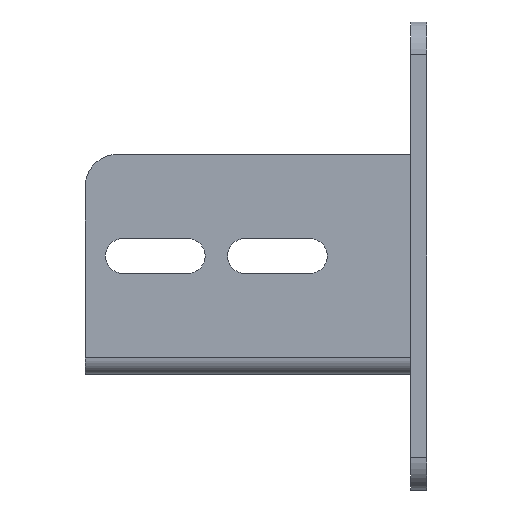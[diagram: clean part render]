
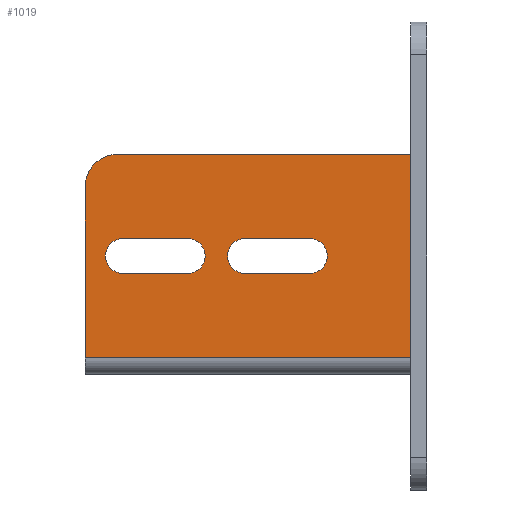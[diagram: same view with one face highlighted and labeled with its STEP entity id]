
A CAD part, left-side view. The second image highlights one B-rep face of the part: STEP entity #1019.
In plain terms, the highlighted planar face has unit normal (-1, 0, 0).
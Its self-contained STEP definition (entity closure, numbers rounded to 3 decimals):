
#6 = CARTESIAN_POINT ( 'NONE',  ( -29., 74.75, 4.25 ) ) ;
#20 = EDGE_LOOP ( 'NONE', ( #544, #1239, #1449, #502, #1602 ) ) ;
#142 = VERTEX_POINT ( 'NONE', #712 ) ;
#178 = ORIENTED_EDGE ( 'NONE', *, *, #788, .F. ) ;
#185 = ORIENTED_EDGE ( 'NONE', *, *, #912, .F. ) ;
#187 = DIRECTION ( 'NONE',  ( 0., 0., -1. ) ) ;
#190 = CARTESIAN_POINT ( 'NONE',  ( -29., 58.75, 4.25 ) ) ;
#191 = EDGE_CURVE ( 'NONE', #1428, #613, #752, .T. ) ;
#194 = LINE ( 'NONE', #828, #800 ) ;
#199 = DIRECTION ( 'NONE',  ( -1., 0., 0. ) ) ;
#202 = EDGE_CURVE ( 'NONE', #295, #1503, #970, .T. ) ;
#212 = EDGE_CURVE ( 'NONE', #1130, #1428, #1397, .T. ) ;
#287 = LINE ( 'NONE', #785, #1114 ) ;
#290 = EDGE_LOOP ( 'NONE', ( #315, #1296, #1006, #1247 ) ) ;
#295 = VERTEX_POINT ( 'NONE', #1049 ) ;
#302 = CARTESIAN_POINT ( 'NONE',  ( -29., 84., 25. ) ) ;
#310 = LINE ( 'NONE', #569, #557 ) ;
#315 = ORIENTED_EDGE ( 'NONE', *, *, #212, .F. ) ;
#318 = DIRECTION ( 'NONE',  ( 0., 0., 1. ) ) ;
#355 = EDGE_CURVE ( 'NONE', #1193, #1503, #194, .T. ) ;
#368 = EDGE_CURVE ( 'NONE', #653, #1193, #310, .T. ) ;
#386 = EDGE_CURVE ( 'NONE', #295, #142, #1403, .T. ) ;
#448 = CARTESIAN_POINT ( 'NONE',  ( -29., 84., -29. ) ) ;
#457 = AXIS2_PLACEMENT_3D ( 'NONE', #1111, #1613, #989 ) ;
#458 = DIRECTION ( 'NONE',  ( 1., 0., 0. ) ) ;
#465 = DIRECTION ( 'NONE',  ( 0., 0., -1. ) ) ;
#470 = DIRECTION ( 'NONE',  ( 0., 0., 1. ) ) ;
#500 = LINE ( 'NONE', #612, #638 ) ;
#502 = ORIENTED_EDGE ( 'NONE', *, *, #202, .F. ) ;
#510 = ORIENTED_EDGE ( 'NONE', *, *, #642, .F. ) ;
#544 = ORIENTED_EDGE ( 'NONE', *, *, #710, .F. ) ;
#557 = VECTOR ( 'NONE', #1572, 1000. ) ;
#562 = PLANE ( 'NONE',  #1402 ) ;
#569 = CARTESIAN_POINT ( 'NONE',  ( -29., 84., -25. ) ) ;
#573 = CARTESIAN_POINT ( 'NONE',  ( -29., 28.75, -4.25 ) ) ;
#612 = CARTESIAN_POINT ( 'NONE',  ( -29., 74.75, -4.25 ) ) ;
#613 = VERTEX_POINT ( 'NONE', #1457 ) ;
#633 = DIRECTION ( 'NONE',  ( 0., -1., 0. ) ) ;
#638 = VECTOR ( 'NONE', #1004, 1000. ) ;
#642 = EDGE_CURVE ( 'NONE', #1187, #1408, #1562, .T. ) ;
#653 = VERTEX_POINT ( 'NONE', #1080 ) ;
#656 = DIRECTION ( 'NONE',  ( 0., 1., 0. ) ) ;
#690 = VERTEX_POINT ( 'NONE', #190 ) ;
#710 = EDGE_CURVE ( 'NONE', #653, #142, #1098, .T. ) ;
#712 = CARTESIAN_POINT ( 'NONE',  ( -29., 84., 17. ) ) ;
#752 = CIRCLE ( 'NONE', #457, 4.25 ) ;
#758 = VECTOR ( 'NONE', #656, 1000. ) ;
#776 = AXIS2_PLACEMENT_3D ( 'NONE', #1102, #810, #465 ) ;
#781 = AXIS2_PLACEMENT_3D ( 'NONE', #1444, #1345, #318 ) ;
#784 = LINE ( 'NONE', #1288, #758 ) ;
#785 = CARTESIAN_POINT ( 'NONE',  ( -29., 74.75, 4.25 ) ) ;
#788 = EDGE_CURVE ( 'NONE', #1408, #956, #500, .T. ) ;
#795 = VECTOR ( 'NONE', #470, 1000. ) ;
#800 = VECTOR ( 'NONE', #838, 1000. ) ;
#810 = DIRECTION ( 'NONE',  ( -1., 0., 0. ) ) ;
#822 = DIRECTION ( 'NONE',  ( 0., 0., 1. ) ) ;
#828 = CARTESIAN_POINT ( 'NONE',  ( -29., 4., -29. ) ) ;
#838 = DIRECTION ( 'NONE',  ( 0., 0., 1. ) ) ;
#843 = ORIENTED_EDGE ( 'NONE', *, *, #1066, .F. ) ;
#872 = DIRECTION ( 'NONE',  ( 0., -1., 0. ) ) ;
#912 = EDGE_CURVE ( 'NONE', #690, #1187, #287, .T. ) ;
#916 = CARTESIAN_POINT ( 'NONE',  ( -29., 58.75, -4.25 ) ) ;
#929 = AXIS2_PLACEMENT_3D ( 'NONE', #1340, #199, #822 ) ;
#937 = CARTESIAN_POINT ( 'NONE',  ( -29., 4., 25. ) ) ;
#956 = VERTEX_POINT ( 'NONE', #916 ) ;
#969 = FACE_BOUND ( 'NONE', #290, .T. ) ;
#970 = LINE ( 'NONE', #302, #1425 ) ;
#989 = DIRECTION ( 'NONE',  ( 0., 0., 1. ) ) ;
#1004 = DIRECTION ( 'NONE',  ( 0., -1., 0. ) ) ;
#1006 = ORIENTED_EDGE ( 'NONE', *, *, #1601, .F. ) ;
#1019 = ADVANCED_FACE ( 'NONE', ( #1563, #969, #1085 ), #562, .F. ) ;
#1024 = CARTESIAN_POINT ( 'NONE',  ( -29., 44.75, -4.25 ) ) ;
#1030 = DIRECTION ( 'NONE',  ( 0., 0., 1. ) ) ;
#1049 = CARTESIAN_POINT ( 'NONE',  ( -29., 76., 25. ) ) ;
#1066 = EDGE_CURVE ( 'NONE', #956, #690, #1094, .T. ) ;
#1080 = CARTESIAN_POINT ( 'NONE',  ( -29., 84., -25. ) ) ;
#1085 = FACE_OUTER_BOUND ( 'NONE', #20, .T. ) ;
#1094 = CIRCLE ( 'NONE', #781, 4.25 ) ;
#1098 = LINE ( 'NONE', #1599, #795 ) ;
#1102 = CARTESIAN_POINT ( 'NONE',  ( -29., 76., 17. ) ) ;
#1111 = CARTESIAN_POINT ( 'NONE',  ( -29., 28.75, 0. ) ) ;
#1114 = VECTOR ( 'NONE', #1544, 1000. ) ;
#1130 = VERTEX_POINT ( 'NONE', #1505 ) ;
#1187 = VERTEX_POINT ( 'NONE', #6 ) ;
#1193 = VERTEX_POINT ( 'NONE', #1604 ) ;
#1239 = ORIENTED_EDGE ( 'NONE', *, *, #368, .T. ) ;
#1247 = ORIENTED_EDGE ( 'NONE', *, *, #191, .F. ) ;
#1288 = CARTESIAN_POINT ( 'NONE',  ( -29., 44.75, 4.25 ) ) ;
#1296 = ORIENTED_EDGE ( 'NONE', *, *, #1545, .F. ) ;
#1313 = CARTESIAN_POINT ( 'NONE',  ( -29., 44.75, 0. ) ) ;
#1336 = CIRCLE ( 'NONE', #1409, 4.25 ) ;
#1339 = CARTESIAN_POINT ( 'NONE',  ( -29., 44.75, 4.25 ) ) ;
#1340 = CARTESIAN_POINT ( 'NONE',  ( -29., 74.75, 0. ) ) ;
#1345 = DIRECTION ( 'NONE',  ( -1., 0., 0. ) ) ;
#1382 = VECTOR ( 'NONE', #872, 1000. ) ;
#1397 = LINE ( 'NONE', #1024, #1382 ) ;
#1402 = AXIS2_PLACEMENT_3D ( 'NONE', #448, #458, #187 ) ;
#1403 = CIRCLE ( 'NONE', #776, 8. ) ;
#1404 = DIRECTION ( 'NONE',  ( -1., 0., 0. ) ) ;
#1408 = VERTEX_POINT ( 'NONE', #1591 ) ;
#1409 = AXIS2_PLACEMENT_3D ( 'NONE', #1313, #1404, #1030 ) ;
#1425 = VECTOR ( 'NONE', #633, 1000. ) ;
#1428 = VERTEX_POINT ( 'NONE', #573 ) ;
#1444 = CARTESIAN_POINT ( 'NONE',  ( -29., 58.75, 0. ) ) ;
#1449 = ORIENTED_EDGE ( 'NONE', *, *, #355, .T. ) ;
#1457 = CARTESIAN_POINT ( 'NONE',  ( -29., 28.75, 4.25 ) ) ;
#1478 = VERTEX_POINT ( 'NONE', #1339 ) ;
#1503 = VERTEX_POINT ( 'NONE', #937 ) ;
#1505 = CARTESIAN_POINT ( 'NONE',  ( -29., 44.75, -4.25 ) ) ;
#1544 = DIRECTION ( 'NONE',  ( 0., 1., 0. ) ) ;
#1545 = EDGE_CURVE ( 'NONE', #1478, #1130, #1336, .T. ) ;
#1562 = CIRCLE ( 'NONE', #929, 4.25 ) ;
#1563 = FACE_BOUND ( 'NONE', #1608, .T. ) ;
#1572 = DIRECTION ( 'NONE',  ( 0., -1., 0. ) ) ;
#1591 = CARTESIAN_POINT ( 'NONE',  ( -29., 74.75, -4.25 ) ) ;
#1599 = CARTESIAN_POINT ( 'NONE',  ( -29., 84., -29. ) ) ;
#1601 = EDGE_CURVE ( 'NONE', #613, #1478, #784, .T. ) ;
#1602 = ORIENTED_EDGE ( 'NONE', *, *, #386, .T. ) ;
#1604 = CARTESIAN_POINT ( 'NONE',  ( -29., 4., -25. ) ) ;
#1608 = EDGE_LOOP ( 'NONE', ( #178, #510, #185, #843 ) ) ;
#1613 = DIRECTION ( 'NONE',  ( -1., 0., 0. ) ) ;
